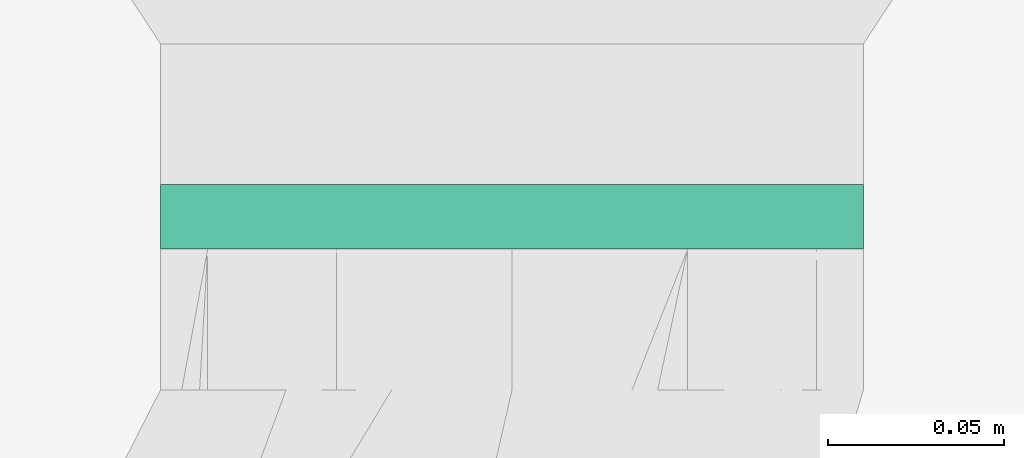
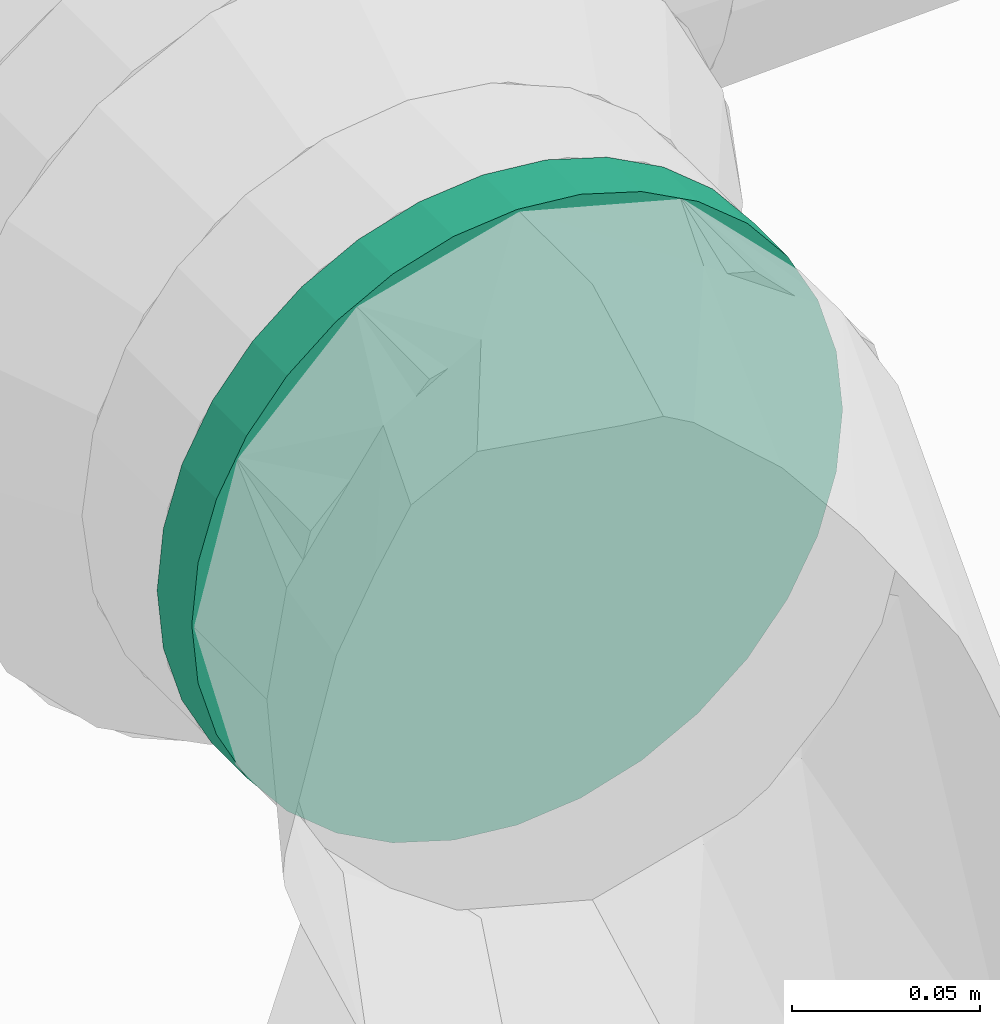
# One storey, part 8 of 31: 1 flow segment.
"""IFC2X3 building model written with IfcOpenShell, lengths in millimetres."""

from ifc_helpers import new_model, entity, si_unit, converted_unit, derived_unit, direction, frame, frame_2d, origin, place, context, subcontext, project, spatial, circle, extrude, type_object, element, save


model = new_model("IFC2X3")

# Units and contexts
model_context = context("Model", 3, precision=0.01, world=origin(), true_north=direction((6.123031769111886e-17, 1.0)))
body_context = subcontext(model_context, "Body", "Model", "MODEL_VIEW")
ifc_project = project(units=[si_unit("LENGTHUNIT", "METRE", prefix="MILLI"), si_unit("AREAUNIT", "SQUARE_METRE"), si_unit("VOLUMEUNIT", "CUBIC_METRE"), converted_unit("PLANEANGLEUNIT", "DEGREE", entity("IfcRatioMeasure", 0.017453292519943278), si_unit("PLANEANGLEUNIT", "RADIAN"), dimensions=[0, 0, 0, 0, 0, 0, 0]), si_unit("MASSUNIT", "GRAM", prefix="KILO"), derived_unit("MASSDENSITYUNIT", [(si_unit("MASSUNIT", "GRAM", prefix="KILO"), 1), (si_unit("LENGTHUNIT", "METRE"), -3)]), derived_unit("MOMENTOFINERTIAUNIT", [(si_unit("LENGTHUNIT", "METRE"), 4)]), si_unit("TIMEUNIT", "SECOND"), si_unit("FREQUENCYUNIT", "HERTZ"), si_unit("THERMODYNAMICTEMPERATUREUNIT", "DEGREE_CELSIUS"), derived_unit("THERMALTRANSMITTANCEUNIT", [(si_unit("MASSUNIT", "GRAM", prefix="KILO"), 1), (si_unit("THERMODYNAMICTEMPERATUREUNIT", "KELVIN"), -1), (si_unit("TIMEUNIT", "SECOND"), -3)]), derived_unit("VOLUMETRICFLOWRATEUNIT", [(si_unit("LENGTHUNIT", "METRE"), 3), (si_unit("TIMEUNIT", "SECOND"), -1)]), derived_unit("MASSFLOWRATEUNIT", [(si_unit("MASSUNIT", "GRAM", prefix="KILO"), 1), (si_unit("TIMEUNIT", "SECOND"), -1)]), derived_unit("ROTATIONALFREQUENCYUNIT", [(si_unit("TIMEUNIT", "SECOND"), -1)]), si_unit("ELECTRICCURRENTUNIT", "AMPERE"), si_unit("ELECTRICVOLTAGEUNIT", "VOLT"), si_unit("POWERUNIT", "WATT"), si_unit("FORCEUNIT", "NEWTON", prefix="KILO"), si_unit("ILLUMINANCEUNIT", "LUX"), si_unit("LUMINOUSFLUXUNIT", "LUMEN"), si_unit("LUMINOUSINTENSITYUNIT", "CANDELA"), derived_unit("USERDEFINED", [(si_unit("MASSUNIT", "GRAM", prefix="KILO"), -1), (si_unit("LENGTHUNIT", "METRE"), -2), (si_unit("TIMEUNIT", "SECOND"), 3), (si_unit("LUMINOUSFLUXUNIT", "LUMEN"), 1)]), derived_unit("SOUNDPOWERUNIT", [(si_unit("MASSUNIT", "GRAM", prefix="KILO"), 1), (si_unit("LENGTHUNIT", "METRE"), 2), (si_unit("TIMEUNIT", "SECOND"), -3)]), derived_unit("SOUNDPRESSUREUNIT", [(si_unit("MASSUNIT", "GRAM", prefix="KILO"), 1), (si_unit("LENGTHUNIT", "METRE"), -1), (si_unit("TIMEUNIT", "SECOND"), -2)]), derived_unit("LINEARVELOCITYUNIT", [(si_unit("LENGTHUNIT", "METRE"), 1), (si_unit("TIMEUNIT", "SECOND"), -1)]), si_unit("PRESSUREUNIT", "PASCAL"), derived_unit("USERDEFINED", [(si_unit("LENGTHUNIT", "METRE"), -2), (si_unit("MASSUNIT", "GRAM", prefix="KILO"), 1), (si_unit("TIMEUNIT", "SECOND"), -2)]), derived_unit("LINEARFORCEUNIT", [(si_unit("MASSUNIT", "GRAM", prefix="KILO"), 1), (si_unit("LENGTHUNIT", "METRE"), 1), (si_unit("TIMEUNIT", "SECOND"), -2), (si_unit("LENGTHUNIT", "METRE"), -1)]), derived_unit("PLANARFORCEUNIT", [(si_unit("MASSUNIT", "GRAM", prefix="KILO"), 1), (si_unit("LENGTHUNIT", "METRE"), 1), (si_unit("TIMEUNIT", "SECOND"), -2), (si_unit("LENGTHUNIT", "METRE"), -2)])], contexts=[model_context])

# Site, building, storey
site_placement = place(None, origin())
site = spatial("IfcSite", under=ifc_project, at=site_placement, Name="Default", CompositionType="ELEMENT")
building_placement = place(site_placement, origin())
building = spatial("IfcBuilding", under=site, at=building_placement, CompositionType="ELEMENT")
storey_placement = place(building_placement, frame((0.0, 0.0, 3880.0)))
storey = spatial("IfcBuildingStorey", under=building, at=storey_placement, Name="Niveau 1", CompositionType="ELEMENT", Elevation=3880.0)

# Flow segment
duct_segment_type = type_object("IfcDuctSegmentType", Name="Gaine circulaire:Té / Coude Aldes", PredefinedType="NOTDEFINED")
flow_segment_placement = place(storey_placement, origin())
element("IfcFlowSegment", 1, at=flow_segment_placement, inside=storey, type_object=duct_segment_type, Name="Gaine circulaire:Té / Coude Aldes", ObjectType="Gaine circulaire:Té / Coude Aldes", context=body_context, shape_type="SweptSolid", body=[
    extrude(circle(Radius=100.0, at=frame_2d((7.038636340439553e-12, -1.0828671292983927e-12), x_axis=(1.0, 0.0))), frame((-2195.0, -22970.0, 3150.0), z_axis=(0.0, 1.0, 0.0), x_axis=(-1.0, 0.0, 0.0)), (0.0, 0.0, 1.0), 18.44746712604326),
])

save(model, "model.ifc")
